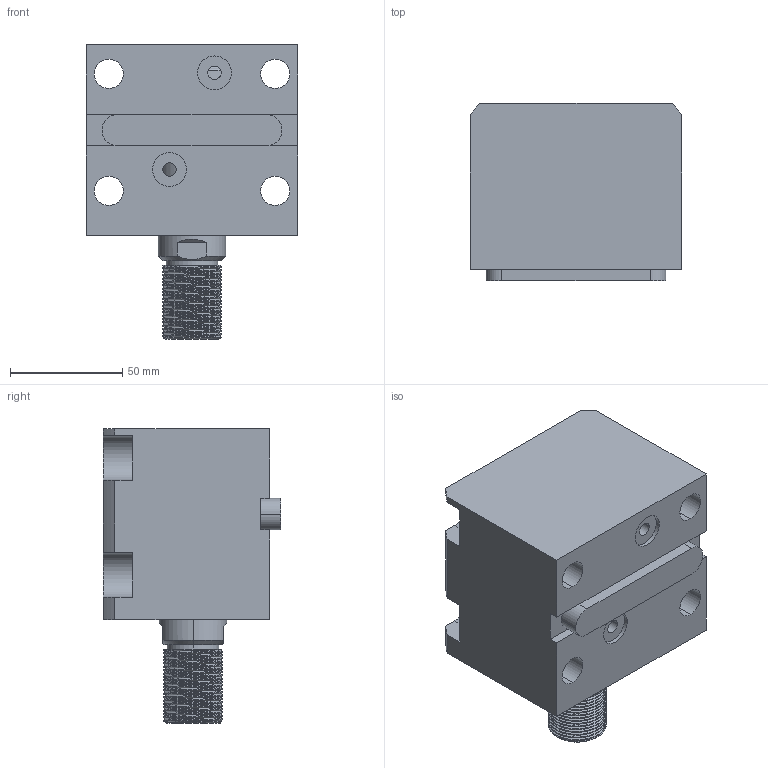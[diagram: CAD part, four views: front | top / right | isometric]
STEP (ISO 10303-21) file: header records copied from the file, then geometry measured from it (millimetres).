
FILE_DESCRIPTION (( 'STEP AP203' ), '1' );
FILE_NAME ('CHTB-LAM50-25W.STEP', '2018-05-23T10:11:43', ( '' ), ( '' ), 'SwSTEP 2.0', 'SolidWorks 2015', '' );
FILE_SCHEMA (( 'CONFIG_CONTROL_DESIGN' ));
Length unit declared in the file: millimetre
Products named in the file (4): 活塞杆LAM50-25W; CHTB-LAM50-25W; CHTM-SDMA50QG; 掛极LAM50-25W
Assembly tree (3 placements, depth 2):
  CHTB-LAM50-25W
    掛极LAM50-25W
    CHTM-SDMA50QG
    活塞杆LAM50-25W
Bounding box: 94 x 79 x 131 mm (x, y, z)
Volume: 531748 mm3; surface area: 100905.4 mm2
Topology: 3 solids, 3 shells, 234 faces, 652 edges, 436 vertices
Faces by surface type: cylinder 136, plane 53, bspline 16, torus 16, cone 13
Entity records: 14805 total; most frequent: CARTESIAN_POINT 8870, ORIENTED_EDGE 1296, DIRECTION 1023, EDGE_CURVE 648, VERTEX_POINT 436, AXIS2_PLACEMENT_3D 395, EDGE_LOOP 264, FACE_OUTER_BOUND 234
